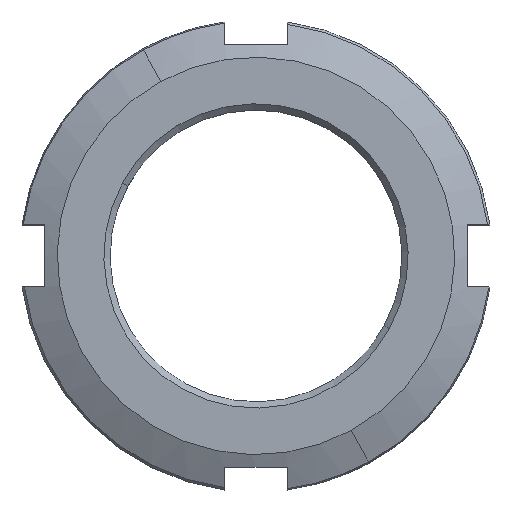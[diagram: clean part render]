
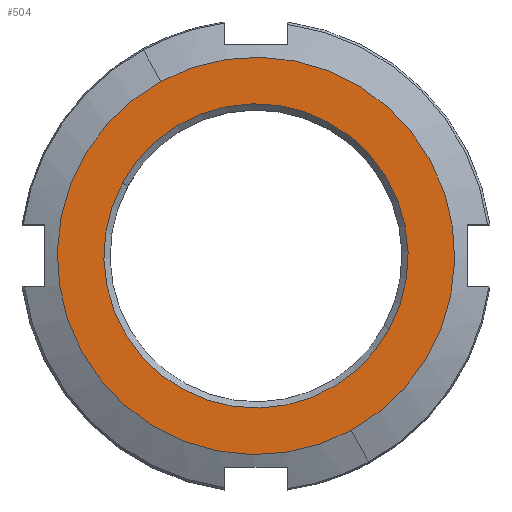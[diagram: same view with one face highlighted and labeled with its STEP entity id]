
A CAD part, top view. The second image highlights one B-rep face of the part: STEP entity #504.
In plain terms, the highlighted planar face has unit normal (0, 0, 1).
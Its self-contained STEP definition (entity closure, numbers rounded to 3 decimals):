
#438=CARTESIAN_POINT('Vertex',(-10.75,5.873,7.)) ;
#441=CARTESIAN_POINT('Axis2P3D Location',(0.,0.,7.)) ;
#445=CARTESIAN_POINT('Vertex',(10.75,-5.873,7.)) ;
#465=CARTESIAN_POINT('Axis2P3D Location',(0.,0.,7.)) ;
#477=CARTESIAN_POINT('Axis2P3D Location',(0.,0.,7.)) ;
#482=CARTESIAN_POINT('Axis2P3D Location',(0.,0.,7.)) ;
#486=CARTESIAN_POINT('Vertex',(7.671,-14.041,7.)) ;
#488=CARTESIAN_POINT('Vertex',(-7.671,14.041,7.)) ;
#491=CARTESIAN_POINT('Axis2P3D Location',(0.,0.,7.)) ;
#442=DIRECTION('Axis2P3D Direction',(0.,0.,1.)) ;
#466=DIRECTION('Axis2P3D Direction',(0.,0.,1.)) ;
#478=DIRECTION('Axis2P3D Direction',(0.,0.,1.)) ;
#479=DIRECTION('Axis2P3D XDirection',(1.,0.,0.)) ;
#483=DIRECTION('Axis2P3D Direction',(0.,0.,1.)) ;
#492=DIRECTION('Axis2P3D Direction',(0.,0.,1.)) ;
#443=AXIS2_PLACEMENT_3D('Circle Axis2P3D',#441,#442,$) ;
#467=AXIS2_PLACEMENT_3D('Circle Axis2P3D',#465,#466,$) ;
#480=AXIS2_PLACEMENT_3D('Plane Axis2P3D',#477,#478,#479) ;
#484=AXIS2_PLACEMENT_3D('Circle Axis2P3D',#482,#483,$) ;
#493=AXIS2_PLACEMENT_3D('Circle Axis2P3D',#491,#492,$) ;
#497=ORIENTED_EDGE('',*,*,#490,.T.) ;
#498=ORIENTED_EDGE('',*,*,#495,.T.) ;
#501=ORIENTED_EDGE('',*,*,#469,.F.) ;
#502=ORIENTED_EDGE('',*,*,#447,.F.) ;
#503=FACE_BOUND('',#500,.T.) ;
#504=ADVANCED_FACE('PartBody',(#499,#503),#481,.T.) ;
#444=CIRCLE('generated circle',#443,12.25) ;
#468=CIRCLE('generated circle',#467,12.25) ;
#485=CIRCLE('generated circle',#484,16.) ;
#494=CIRCLE('generated circle',#493,16.) ;
#447=EDGE_CURVE('',#439,#446,#444,.T.) ;
#469=EDGE_CURVE('',#446,#439,#468,.T.) ;
#490=EDGE_CURVE('',#487,#489,#485,.T.) ;
#495=EDGE_CURVE('',#489,#487,#494,.T.) ;
#496=EDGE_LOOP('',(#497,#498)) ;
#500=EDGE_LOOP('',(#501,#502)) ;
#499=FACE_OUTER_BOUND('',#496,.T.) ;
#481=PLANE('Plane',#480) ;
#439=VERTEX_POINT('',#438) ;
#446=VERTEX_POINT('',#445) ;
#487=VERTEX_POINT('',#486) ;
#489=VERTEX_POINT('',#488) ;
